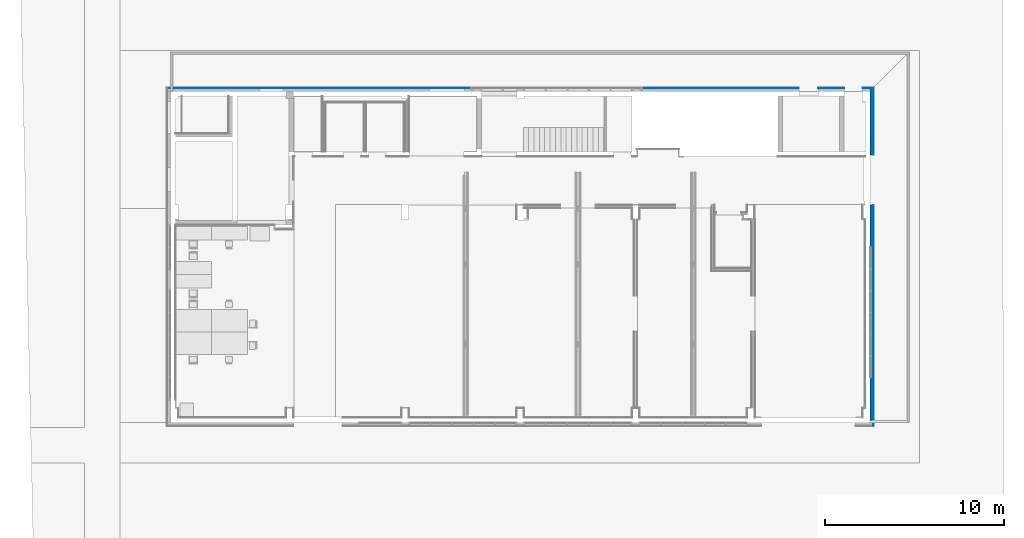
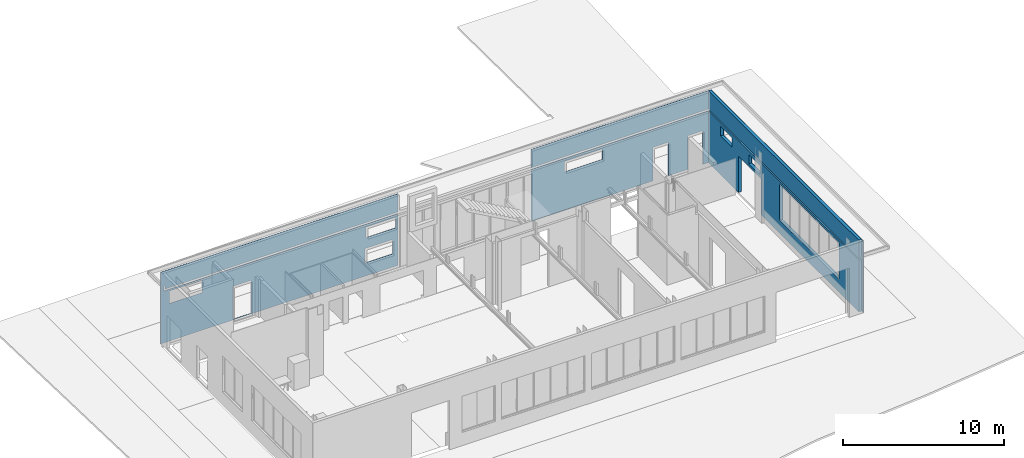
# One storey, part 20 of 27: 3 walls.
"""IFC2X3 building model written with IfcOpenShell, lengths in centimetres."""

from ifc_helpers import new_model, entity, si_unit, converted_unit, derived_unit, direction, frame, origin, place, context, subcontext, project, spatial, faceted_brep, material, layer, layer_set, type_object, element, save


model = new_model("IFC2X3")

# Units and contexts
model_context = context("Model", 3, precision=0.001, world=origin(), true_north=direction((6.12303176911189e-17, 1.0)))
body_context = subcontext(model_context, "Body", "Model", "MODEL_VIEW")
ifc_project = project(units=[si_unit("LENGTHUNIT", "METRE", prefix="CENTI"), si_unit("AREAUNIT", "SQUARE_METRE"), si_unit("VOLUMEUNIT", "CUBIC_METRE"), converted_unit("PLANEANGLEUNIT", "DEGREE", entity("IfcRatioMeasure", 0.0174532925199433), si_unit("PLANEANGLEUNIT", "RADIAN"), dimensions=[0, 0, 0, 0, 0, 0, 0]), si_unit("MASSUNIT", "GRAM", prefix="KILO"), derived_unit("MASSDENSITYUNIT", [(si_unit("MASSUNIT", "GRAM", prefix="KILO"), 1), (si_unit("LENGTHUNIT", "METRE"), -3)]), derived_unit("MOMENTOFINERTIAUNIT", [(si_unit("LENGTHUNIT", "METRE"), 4)]), si_unit("TIMEUNIT", "SECOND"), si_unit("FREQUENCYUNIT", "HERTZ"), si_unit("THERMODYNAMICTEMPERATUREUNIT", "DEGREE_CELSIUS"), derived_unit("THERMALTRANSMITTANCEUNIT", [(si_unit("MASSUNIT", "GRAM", prefix="KILO"), 1), (si_unit("THERMODYNAMICTEMPERATUREUNIT", "KELVIN"), -1), (si_unit("TIMEUNIT", "SECOND"), -3)]), derived_unit("VOLUMETRICFLOWRATEUNIT", [(si_unit("LENGTHUNIT", "METRE"), 3), (si_unit("TIMEUNIT", "SECOND"), -1)]), si_unit("ELECTRICCURRENTUNIT", "AMPERE"), si_unit("ELECTRICVOLTAGEUNIT", "VOLT"), si_unit("POWERUNIT", "WATT"), si_unit("FORCEUNIT", "NEWTON", prefix="KILO"), si_unit("ILLUMINANCEUNIT", "LUX"), si_unit("LUMINOUSFLUXUNIT", "LUMEN"), si_unit("LUMINOUSINTENSITYUNIT", "CANDELA"), derived_unit("USERDEFINED", [(si_unit("MASSUNIT", "GRAM", prefix="KILO"), -1), (si_unit("LENGTHUNIT", "METRE"), -2), (si_unit("TIMEUNIT", "SECOND"), 3), (si_unit("LUMINOUSFLUXUNIT", "LUMEN"), 1)]), derived_unit("LINEARVELOCITYUNIT", [(si_unit("LENGTHUNIT", "METRE"), 1), (si_unit("TIMEUNIT", "SECOND"), -1)]), si_unit("PRESSUREUNIT", "PASCAL"), derived_unit("USERDEFINED", [(si_unit("LENGTHUNIT", "METRE"), -2), (si_unit("MASSUNIT", "GRAM", prefix="KILO"), 1), (si_unit("TIMEUNIT", "SECOND"), -2)]), derived_unit("LINEARFORCEUNIT", [(si_unit("MASSUNIT", "GRAM", prefix="KILO"), 1), (si_unit("LENGTHUNIT", "METRE"), 1), (si_unit("TIMEUNIT", "SECOND"), -2), (si_unit("LENGTHUNIT", "METRE"), -1)]), derived_unit("PLANARFORCEUNIT", [(si_unit("MASSUNIT", "GRAM", prefix="KILO"), 1), (si_unit("LENGTHUNIT", "METRE"), 1), (si_unit("TIMEUNIT", "SECOND"), -2), (si_unit("LENGTHUNIT", "METRE"), -2)])], contexts=[model_context])

# Site, building, storey
site_placement = place(None, origin())
site = spatial("IfcSite", under=ifc_project, at=site_placement, Name="Default", CompositionType="ELEMENT")
building_placement = place(site_placement, origin())
building = spatial("IfcBuilding", under=site, at=building_placement, CompositionType="ELEMENT")
storey_placement = place(building_placement, origin())
storey = spatial("IfcBuildingStorey", under=building, at=storey_placement, Name="Poziom 0 A +/-0,00", CompositionType="ELEMENT", Elevation=3.38570427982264e-11)

# Walls
ifc_material_1 = material(Name="Wełna skalna")
ifc_layer_1 = layer(ifc_material_1, 20.0)
ifc_layer_set_1 = layer_set([ifc_layer_1], Name="Ściana podstawowa:Wełna mineralna gr. 20cm")
wall_type_1 = type_object("IfcWallType", Name="Ściana podstawowa:Wełna mineralna gr. 20cm", PredefinedType="STANDARD", material=ifc_layer_set_1)
wall_1_placement = place(storey_placement, frame((985.734884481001, 255.127452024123, 0.0), z_axis=(0.0, 0.0, 1.0), x_axis=(0.0, 1.0, 0.0)))
element("IfcWall", 1, at=wall_1_placement, inside=storey, type_object=wall_type_1, Name="Ściana podstawowa:Wełna mineralna gr. 20cm", ObjectType="Ściana podstawowa:Wełna mineralna gr. 20cm", context=body_context, shape_type="Brep", body=[
    faceted_brep([(1870.0, -10.0, 545.0), (0.0, -10.0, 545.0), (0.0, -10.0, 405.818181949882), (1870.0, -10.0, 405.818181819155), (0.0, 10.0, 545.0), (1870.0, 10.0, 545.0), (1870.0, 10.0, 405.818181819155), (1850.0, 10.0, 406.20000012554), (0.0, 10.0, 406.20000012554), (1850.0, 10.0, 406.200000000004), (1850.0, 9.99999342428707, 406.200000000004), (1870.0, -10.0, 405.818181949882)], [[[0, 1, 2, 3]], [[4, 5, 6, 7, 8]], [[1, 0, 5, 4]], [[1, 4, 8, 2]], [[3, 9, 6]], [[10, 11, 2, 8]], [[5, 0, 3, 6]]]),
    faceted_brep([(1870.0, -10.0, 0.0), (1870.0, 10.0, 0.0), (1870.0, 10.0, 393.818181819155), (1870.0, -10.0, 393.818181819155), (1214.99997961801, -10.0, 0.0), (0.0, -10.0, 0.0), (0.0, 10.0, 0.0), (1214.99997961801, 10.0, 0.0), (1214.99997961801, -10.0, 275.0), (1214.99997961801, 10.0, 275.0), (1495.49999995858, -10.0, 275.0), (1495.49999995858, 10.0, 275.0), (1495.49999995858, -10.0, 0.0), (1495.49999995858, 10.0, 0.0), (246.999005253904, -10.0, 100.0), (982.999010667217, -10.0, 100.0), (982.999010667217, 10.0, 100.0), (246.999005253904, 10.0, 100.0), (246.999005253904, -10.0, 375.0), (246.999005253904, 10.0, 375.0), (982.999010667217, -10.0, 375.0), (982.999010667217, 10.0, 375.0), (1850.0, 9.99999342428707, 394.200000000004), (1850.0, 10.0, 394.20000012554), (0.0, 10.0, 394.20000012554), (0.0, -10.0, 393.818181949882), (1717.0, -10.0, 365.44999999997), (1577.0, -10.0, 365.44999999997), (1577.0, 10.0, 365.44999999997), (1717.0, 10.0, 365.44999999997), (1717.0, -10.0, 295.44999999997), (1717.0, 10.0, 295.44999999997), (1577.0, -10.0, 295.44999999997), (1577.0, 10.0, 295.44999999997), (1367.0, -10.0, 365.44999999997), (1227.0, -10.0, 365.44999999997), (1227.0, 10.0, 365.44999999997), (1367.0, 10.0, 365.44999999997), (1367.0, -10.0, 295.44999999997), (1367.0, 10.0, 295.44999999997), (1227.0, -10.0, 295.44999999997), (1227.0, 10.0, 295.44999999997), (1850.0, 10.0, 394.200000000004), (1870.0, -10.0, 393.818181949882)], [[[0, 1, 2, 3]], [[4, 5, 6, 7]], [[8, 4, 7, 9]], [[10, 8, 9, 11]], [[12, 10, 11, 13]], [[0, 12, 13, 1]], [[14, 15, 16, 17]], [[18, 14, 17, 19]], [[20, 18, 19, 21]], [[15, 20, 21, 16]], [[22, 3, 2]], [[3, 23, 24, 25]], [[26, 27, 28, 29]], [[30, 26, 29, 31]], [[32, 30, 31, 33]], [[27, 32, 33, 28]], [[34, 35, 36, 37]], [[38, 34, 37, 39]], [[40, 38, 39, 41]], [[35, 40, 41, 36]], [[6, 5, 25, 24]], [[7, 6, 24, 42, 2, 1, 13, 11, 9], [17, 16, 21, 19], [29, 28, 33, 31], [37, 36, 41, 39]], [[5, 4, 8, 10, 12, 0, 43, 25], [15, 14, 18, 20], [27, 26, 30, 32], [35, 34, 38, 40]]]),
])
ifc_material_2 = material(Name="Tynk gipsowy")
ifc_layer_2 = layer(ifc_material_2, 2.0)
ifc_layer_set_2 = layer_set([ifc_layer_2], Name="Ściana podstawowa:Tynk zewnętrzny gr. 2cm")
wall_type_2 = type_object("IfcWallType", Name="Ściana podstawowa:Tynk zewnętrzny gr. 2cm", PredefinedType="STANDARD", material=ifc_layer_set_2)
wall_2_placement = place(storey_placement, frame((995.734884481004, 2126.12745209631, 0.0), z_axis=(0.0, 0.0, 1.0), x_axis=(-1.0, 0.0, 0.0)))
element("IfcWall", 2, at=wall_2_placement, inside=storey, type_object=wall_type_2, Name="Ściana podstawowa:Tynk zewnętrzny gr. 2cm", ObjectType="Ściana podstawowa:Tynk zewnętrzny gr. 2cm", context=body_context, shape_type="Brep", body=[
    faceted_brep([(164.752351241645, -1.0, 0.0), (307.500006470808, -1.0, 0.0), (307.500006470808, -1.0, 255.000048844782), (417.500006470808, -1.0, 255.000048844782), (417.500006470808, -1.0, 0.0), (1061.49987339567, -1.0, 0.0), (1294.00001700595, -1.0, 0.0), (1294.00001700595, -1.0, 393.779999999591), (0.0, -1.0, 393.779999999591), (0.0, -1.0, 0.0), (59.9998733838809, -1.0, 0.0), (59.9998733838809, -1.0, 255.000044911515), (164.752351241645, -1.0, 255.000044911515), (781.49999082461, -1.0, 370.0), (1051.49999082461, -1.0, 370.0), (1051.49999082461, -1.0, 290.0), (781.49999082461, -1.0, 290.0), (164.752351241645, 1.0, 0.0), (307.500006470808, 1.0, 0.0), (0.0, 1.0, 0.0), (59.9998733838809, 1.0, 0.0), (59.9998733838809, 1.0, 255.000044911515), (164.752351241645, 1.0, 255.000044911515), (307.500006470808, 1.0, 255.000048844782), (417.500006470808, 1.0, 255.000048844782), (417.500006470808, 1.0, 0.0), (1061.49987339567, 1.0, 0.0), (1294.00001700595, 1.0, 0.0), (781.49999082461, 1.0, 370.0), (1051.49999082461, 1.0, 370.0), (1051.49999082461, 1.0, 290.0), (781.49999082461, 1.0, 290.0), (1294.00001700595, 1.0, 393.818181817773), (0.0, 1.0, 393.818181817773)], [[[0, 1, 2, 3, 4, 5, 6, 7, 8, 9, 10, 11, 12], [13, 14, 15, 16]], [[1, 0, 17, 18]], [[10, 9, 19, 20]], [[11, 10, 20, 21]], [[12, 11, 21, 22]], [[0, 12, 22, 17]], [[2, 1, 18, 23]], [[3, 2, 23, 24]], [[4, 3, 24, 25]], [[5, 4, 25, 26]], [[6, 5, 26, 27]], [[14, 13, 28, 29]], [[15, 14, 29, 30]], [[16, 15, 30, 31]], [[13, 16, 31, 28]], [[8, 7, 32, 33]], [[6, 27, 32, 7]], [[19, 9, 8, 33]], [[18, 17, 22, 21, 20, 19, 33, 32, 27, 26, 25, 24, 23], [29, 28, 31, 30]]]),
    faceted_brep([(3952.0, 1.0, 543.130081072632), (3952.0, 1.0, 0.0), (2248.49999972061, 1.0, 0.0), (2248.49999972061, 1.0, 393.818181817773), (3929.99999105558, 1.0, 393.818181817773), (3929.99999105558, 1.0, 428.499999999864), (3919.99999105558, 1.0, 428.499999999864), (3919.99999105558, 1.0, 405.818181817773), (2248.49999972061, 1.0, 405.818181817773), (2248.49999972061, 1.0, 543.130081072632), (2476.49998153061, 1.0, 290.0), (2476.49998153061, 1.0, 370.0), (2266.49998153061, 1.0, 370.0), (2266.49998153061, 1.0, 290.0), (2484.00000648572, 1.0, 100.000080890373), (2484.00000648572, 1.0, 210.0), (2286.99999348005, 1.0, 210.0), (2286.99999348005, 1.0, 100.000080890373), (3433.99489782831, 1.0, 5.18730376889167), (3433.99489782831, 1.0, 255.187303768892), (3303.99489782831, 1.0, 255.187303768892), (3303.99489782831, 1.0, 5.18730376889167), (3889.99999105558, 1.0, 380.0), (3655.0, 1.0, 380.0), (3655.0, 1.0, 285.0), (3889.99999105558, 1.0, 285.0), (3952.0, -1.0, 543.130081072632), (3952.0, -1.0, 0.0), (2248.49999972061, -1.0, 0.0), (2476.49998153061, -1.0, 290.0), (2476.49998153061, -1.0, 370.0), (2266.49998153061, -1.0, 290.0), (2266.49998153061, -1.0, 370.0), (2484.00000648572, -1.0, 100.000080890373), (2484.00000648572, -1.0, 210.0), (2286.99999348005, -1.0, 100.000080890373), (2286.99999348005, -1.0, 210.0), (3433.99489782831, -1.0, 5.18730376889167), (3433.99489782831, -1.0, 255.187303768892), (3303.99489782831, -1.0, 5.18730376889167), (3303.99489782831, -1.0, 255.187303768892), (2248.49999972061, -1.0, 543.130081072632), (2248.49999972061, -1.0, 405.779999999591), (3929.99999105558, -1.0, 393.779999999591), (3929.99999105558, -1.0, 428.499999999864), (3919.99999105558, -1.0, 405.779999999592), (2248.49999972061, -1.0, 393.779999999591), (3889.99999105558, -1.0, 380.0), (3655.0, -1.0, 380.0), (3889.99999105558, -1.0, 285.0), (3655.0, -1.0, 285.0), (3919.99999105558, -1.0, 428.499999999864)], [[[0, 1, 2, 3, 4, 5, 6, 7, 8, 9], [10, 11, 12, 13], [14, 15, 16, 17], [18, 19, 20, 21], [22, 23, 24, 25]], [[26, 27, 1, 0]], [[27, 28, 2, 1]], [[29, 30, 11, 10]], [[31, 29, 10, 13]], [[32, 31, 13, 12]], [[30, 32, 12, 11]], [[33, 34, 15, 14]], [[35, 33, 14, 17]], [[36, 35, 17, 16]], [[34, 36, 16, 15]], [[37, 38, 19, 18]], [[39, 37, 18, 21]], [[40, 39, 21, 20]], [[38, 40, 20, 19]], [[41, 9, 8, 42]], [[41, 26, 0, 9]], [[4, 43, 44, 5]], [[42, 8, 7, 45]], [[43, 4, 3, 46]], [[47, 48, 23, 22]], [[49, 47, 22, 25]], [[50, 49, 25, 24]], [[48, 50, 24, 23]], [[6, 51, 45, 7]], [[51, 6, 5, 44]], [[2, 28, 46, 3]], [[27, 26, 41, 42, 45, 51, 44, 43, 46, 28], [30, 29, 31, 32], [34, 33, 35, 36], [38, 37, 39, 40], [48, 47, 49, 50]]]),
    faceted_brep([(0.0, -1.0, 545.0), (1294.00001700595, -1.0, 545.0), (1294.00001700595, 1.0, 545.0), (0.0, 1.0, 545.0), (0.0, 1.0, 405.818181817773), (0.0, -1.0, 405.779999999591), (1294.00001700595, -1.0, 405.779999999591), (1294.00001700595, 1.0, 405.818181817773)], [[[0, 1, 2, 3]], [[0, 3, 4, 5]], [[2, 1, 6, 7]], [[6, 5, 4, 7]], [[3, 2, 7, 4]], [[1, 0, 5, 6]]]),
])
wall_3_placement = place(storey_placement, frame((996.734884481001, 235.127452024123, 0.0), z_axis=(0.0, 0.0, 1.0), x_axis=(0.0, 1.0, 0.0)))
element("IfcWall", 3, at=wall_3_placement, inside=storey, type_object=wall_type_2, Name="Ściana podstawowa:Tynk zewnętrzny gr. 2cm", ObjectType="Ściana podstawowa:Tynk zewnętrzny gr. 2cm", context=body_context, shape_type="Brep", body=[
    faceted_brep([(1892.0, -1.0, 545.0), (0.0, -1.0, 545.0), (0.0, -1.0, 0.0), (1234.999979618, -1.0, 0.0), (1234.999979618, -1.0, 275.0), (1515.51931534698, -1.0, 275.0), (1515.51931534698, -1.0, 0.0), (1892.0, -1.0, 0.0), (1892.0, -1.0, 393.780000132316), (20.0002055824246, -1.0, 393.780000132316), (20.0002055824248, -1.0, 405.780000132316), (1892.0, -1.0, 405.779999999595), (1002.99901066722, -1.0, 100.0), (269.500173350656, -1.0, 100.0), (269.500173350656, -1.0, 375.0), (1002.99901066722, -1.0, 375.0), (1597.0, -1.0, 365.44999999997), (1737.0, -1.0, 365.44999999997), (1737.0, -1.0, 295.44999999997), (1597.0, -1.0, 295.44999999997), (1247.0, -1.0, 365.44999999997), (1387.0, -1.0, 365.44999999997), (1387.0, -1.0, 295.44999999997), (1247.0, -1.0, 295.44999999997), (0.0, 1.0, 545.0), (1892.0, 1.0, 545.0), (1892.0, 1.0, 405.779999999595), (1889.9999931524, 1.0, 405.818181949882), (20.0002055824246, 1.0, 405.818181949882), (20.0002055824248, 1.0, 393.818181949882), (1889.9999931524, 1.0, 393.818181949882), (1892.0, 1.0, 393.779999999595), (1892.0, 1.0, 0.0), (1515.51931534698, 1.0, 0.0), (1515.51931534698, 1.0, 275.0), (1234.999979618, 1.0, 275.0), (1234.999979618, 1.0, 0.0), (0.0, 1.0, 0.0), (269.500173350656, 1.0, 100.0), (1002.99901066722, 1.0, 100.0), (1002.99901066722, 1.0, 375.0), (269.500173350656, 1.0, 375.0), (1737.0, 1.0, 365.44999999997), (1597.0, 1.0, 365.44999999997), (1597.0, 1.0, 295.44999999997), (1737.0, 1.0, 295.44999999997), (1387.0, 1.0, 365.44999999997), (1247.0, 1.0, 365.44999999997), (1247.0, 1.0, 295.44999999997), (1387.0, 1.0, 295.44999999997), (1892.0, -1.0, 393.779999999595), (1892.0, -1.0, 405.780000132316)], [[[0, 1, 2, 3, 4, 5, 6, 7, 8, 9, 10, 11], [12, 13, 14, 15], [16, 17, 18, 19], [20, 21, 22, 23]], [[24, 25, 26, 27, 28, 29, 30, 31, 32, 33, 34, 35, 36, 37], [38, 39, 40, 41], [42, 43, 44, 45], [46, 47, 48, 49]], [[7, 32, 31, 50]], [[1, 0, 25, 24]], [[2, 1, 24, 37]], [[3, 2, 37, 36]], [[4, 3, 36, 35]], [[5, 4, 35, 34]], [[6, 5, 34, 33]], [[7, 6, 33, 32]], [[13, 12, 39, 38]], [[14, 13, 38, 41]], [[15, 14, 41, 40]], [[12, 15, 40, 39]], [[28, 10, 9, 29]], [[11, 27, 26]], [[30, 50, 31]], [[27, 51, 10, 28]], [[50, 30, 29, 9]], [[17, 16, 43, 42]], [[18, 17, 42, 45]], [[19, 18, 45, 44]], [[16, 19, 44, 43]], [[21, 20, 47, 46]], [[22, 21, 46, 49]], [[23, 22, 49, 48]], [[20, 23, 48, 47]], [[25, 0, 11, 26]]]),
])

save(model, "model.ifc")
